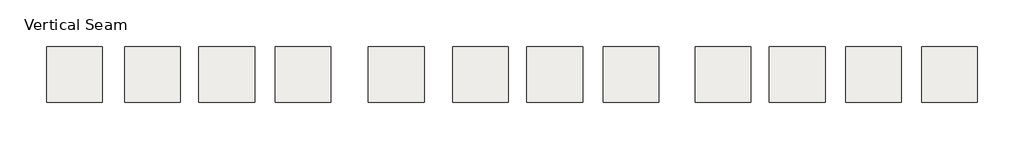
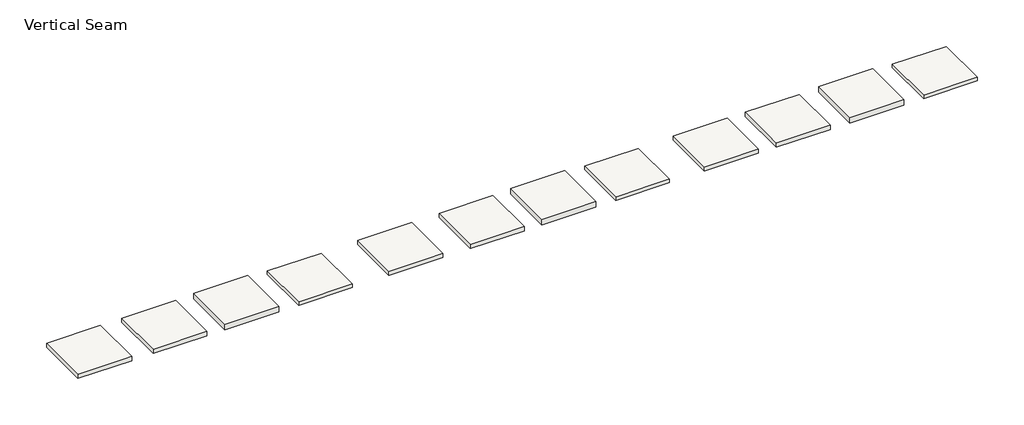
# One storey: 12 roofs.
"""IFC4 building model written with IfcOpenShell, lengths in millimetres."""

from ifc_helpers import new_model, si_unit, frame, origin, place, context, project, spatial, polyline, outline, extrude, element, save

model = new_model("IFC4")

# Units and contexts
model_context = context("Model", 3, world=origin())
ifc_project = project(units=[si_unit("LENGTHUNIT", "METRE", prefix="MILLI")], contexts=[model_context])

# Site, building, storey
site = spatial("IfcSite", under=ifc_project)
building = spatial("IfcBuilding", under=site)
storey = spatial("IfcBuildingStorey", under=building, Name="Vertical Seam", Elevation=1828.8)

# Roofs
placement = place(None, origin())
element("IfcRoof", 1, ObjectType="Vertical Seam 12\" OC - Solid Substrate", at=placement, inside=storey, context=model_context, shape_type="SweptSolid", body=[
    extrude(outline(polyline([(-31177.0656308, 19652.5817436), (-28129.0656308, 19652.5817436), (-28129.0656308, 16604.5817436), (-31177.0656308, 16604.5817436), (-31177.0656308, 19652.5817436)])), frame((0.0, 0.0, 1828.8), z_axis=(0.0, 0.0, 1.0), x_axis=(1.0, 0.0, 0.0)), (0.0, 0.0, 1.0), 250.825),
])
element("IfcRoof", 2, ObjectType="Vertical Seam 12\" OC - Steel Deck", at=placement, inside=storey, context=model_context, shape_type="SweptSolid", body=[
    extrude(outline(polyline([(-22947.4656308, 19652.5817436), (-19899.4656308, 19652.5817436), (-19899.4656308, 16604.5817436), (-22947.4656308, 16604.5817436), (-22947.4656308, 19652.5817436)])), frame((0.0, 0.0, 1828.8), z_axis=(0.0, 0.0, 1.0), x_axis=(1.0, 0.0, 0.0)), (0.0, 0.0, 1.0), 206.375),
])
element("IfcRoof", 3, ObjectType="Vertical Seam 12\" OC - Steel Framing", at=placement, inside=storey, context=model_context, shape_type="SweptSolid", body=[
    extrude(outline(polyline([(-27113.0656308, 19652.5817436), (-24065.0656308, 19652.5817436), (-24065.0656308, 16604.5817436), (-27113.0656308, 16604.5817436), (-27113.0656308, 19652.5817436)])), frame((0.0, 0.0, 1828.8), z_axis=(0.0, 0.0, 1.0), x_axis=(1.0, 0.0, 0.0)), (0.0, 0.0, 1.0), 330.2),
])
element("IfcRoof", 4, ObjectType="Vertical Seam 12\" OC - Wood Framing", at=placement, inside=storey, context=model_context, shape_type="SweptSolid", body=[
    extrude(outline(polyline([(-35444.2656308, 19652.5817436), (-32396.2656308, 19652.5817436), (-32396.2656308, 16604.5817436), (-35444.2656308, 16604.5817436), (-35444.2656308, 19652.5817436)])), frame((0.0, 0.0, 1828.8), z_axis=(0.0, 0.0, 1.0), x_axis=(1.0, 0.0, 0.0)), (0.0, 0.0, 1.0), 250.825),
])
element("IfcRoof", 5, ObjectType="Vertical Seam 16\" OC - Solid Substrate", at=placement, inside=storey, context=model_context, shape_type="SweptSolid", body=[
    extrude(outline(polyline([(-13237.4157651, 19652.5817436), (-10189.4157651, 19652.5817436), (-10189.4157651, 16604.5817436), (-13237.4157651, 16604.5817436), (-13237.4157651, 19652.5817436)])), frame((0.0, 0.0, 1828.8), z_axis=(0.0, 0.0, 1.0), x_axis=(1.0, 0.0, 0.0)), (0.0, 0.0, 1.0), 250.825),
])
element("IfcRoof", 6, ObjectType="Vertical Seam 16\" OC - Steel Deck", at=placement, inside=storey, context=model_context, shape_type="SweptSolid", body=[
    extrude(outline(polyline([(-5007.8157651, 19652.5817436), (-1959.8157651, 19652.5817436), (-1959.8157651, 16604.5817436), (-5007.8157651, 16604.5817436), (-5007.8157651, 19652.5817436)])), frame((0.0, 0.0, 1828.8), z_axis=(0.0, 0.0, 1.0), x_axis=(1.0, 0.0, 0.0)), (0.0, 0.0, 1.0), 206.375),
])
element("IfcRoof", 7, ObjectType="Vertical Seam 16\" OC - Steel Framing", at=placement, inside=storey, context=model_context, shape_type="SweptSolid", body=[
    extrude(outline(polyline([(-9173.4157651, 19652.5817436), (-6125.4157651, 19652.5817436), (-6125.4157651, 16604.5817436), (-9173.4157651, 16604.5817436), (-9173.4157651, 19652.5817436)])), frame((0.0, 0.0, 1828.8), z_axis=(0.0, 0.0, 1.0), x_axis=(1.0, 0.0, 0.0)), (0.0, 0.0, 1.0), 330.2),
])
element("IfcRoof", 8, ObjectType="Vertical Seam 16\" OC - Wood Framing", at=placement, inside=storey, context=model_context, shape_type="SweptSolid", body=[
    extrude(outline(polyline([(-17838.4406979, 19652.5817436), (-14790.4406979, 19652.5817436), (-14790.4406979, 16604.5817436), (-17838.4406979, 16604.5817436), (-17838.4406979, 19652.5817436)])), frame((0.0, 0.0, 1828.8), z_axis=(0.0, 0.0, 1.0), x_axis=(1.0, 0.0, 0.0)), (0.0, 0.0, 1.0), 250.825),
])
element("IfcRoof", 9, ObjectType="Vertical Seam 18\" OC - Solid Substrate", at=placement, inside=storey, context=model_context, shape_type="SweptSolid", body=[
    extrude(outline(polyline([(21.3842349, 19652.5817436), (3069.3842349, 19652.5817436), (3069.3842349, 16604.5817436), (21.3842349, 16604.5817436), (21.3842349, 19652.5817436)])), frame((0.0, 0.0, 1828.8), z_axis=(0.0, 0.0, 1.0), x_axis=(1.0, 0.0, 0.0)), (0.0, 0.0, 1.0), 250.825),
])
element("IfcRoof", 10, ObjectType="Vertical Seam 18\" OC - Steel Deck", at=placement, inside=storey, context=model_context, shape_type="SweptSolid", body=[
    extrude(outline(polyline([(12416.5842349, 19652.5817436), (15464.5842349, 19652.5817436), (15464.5842349, 16604.5817436), (12416.5842349, 16604.5817436), (12416.5842349, 19652.5817436)])), frame((0.0, 0.0, 1828.8), z_axis=(0.0, 0.0, 1.0), x_axis=(1.0, 0.0, 0.0)), (0.0, 0.0, 1.0), 206.375),
])
element("IfcRoof", 11, ObjectType="Vertical Seam 18\" OC - Steel Framing", at=placement, inside=storey, context=model_context, shape_type="SweptSolid", body=[
    extrude(outline(polyline([(8250.9842349, 19652.5817436), (11298.9842349, 19652.5817436), (11298.9842349, 16604.5817436), (8250.9842349, 16604.5817436), (8250.9842349, 19652.5817436)])), frame((0.0, 0.0, 1828.8), z_axis=(0.0, 0.0, 1.0), x_axis=(1.0, 0.0, 0.0)), (0.0, 0.0, 1.0), 330.2),
])
element("IfcRoof", 12, ObjectType="Vertical Seam 18\" OC - Wood Framing", at=placement, inside=storey, context=model_context, shape_type="SweptSolid", body=[
    extrude(outline(polyline([(4085.3842349, 19652.5817436), (7133.3842349, 19652.5817436), (7133.3842349, 16604.5817436), (4085.3842349, 16604.5817436), (4085.3842349, 19652.5817436)])), frame((0.0, 0.0, 1828.8), z_axis=(0.0, 0.0, 1.0), x_axis=(1.0, 0.0, 0.0)), (0.0, 0.0, 1.0), 250.825),
])

save(model, "model.ifc")
